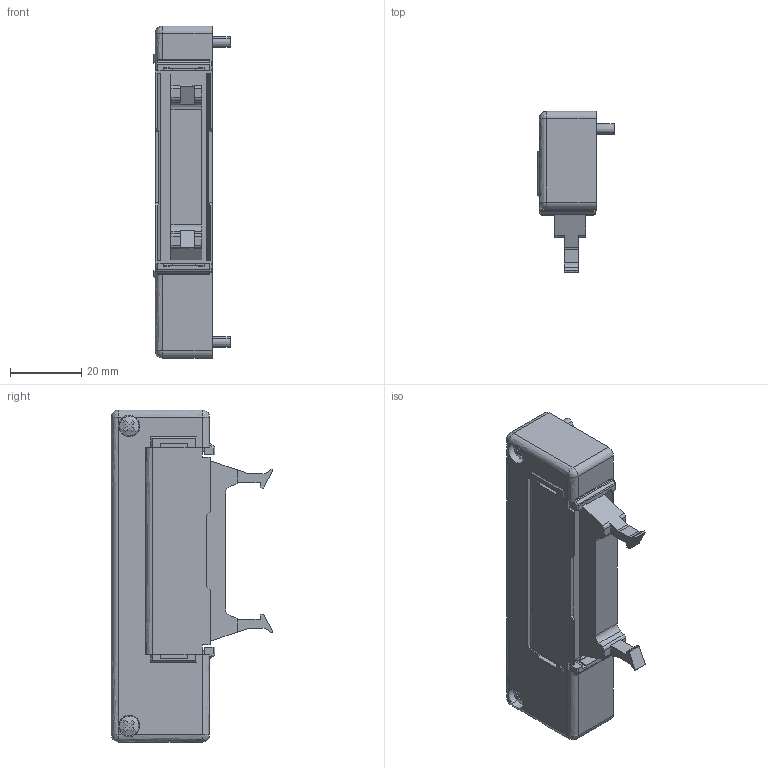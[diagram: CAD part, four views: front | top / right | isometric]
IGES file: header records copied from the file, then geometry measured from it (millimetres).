
Start section: ------------------------------------------------------------------------
Global section: file name: D:\ICADMX\tmp\trans3d_spg\CVICAD02.16560.FZX-F260N_8918.igs; native system: spGate; preprocessor: ver12.6.6; author: Unknown; organization: Unknown; date: 200901.142613; units: millimetre
Bounding box: 21.4 x 45.2 x 93 mm (x, y, z)
Volume: 36648.4 mm3; surface area: 14621.5 mm2
Topology: 2 solids, 2 shells, 327 faces, 952 edges, 610 vertices
Faces by surface type: bspline 327
